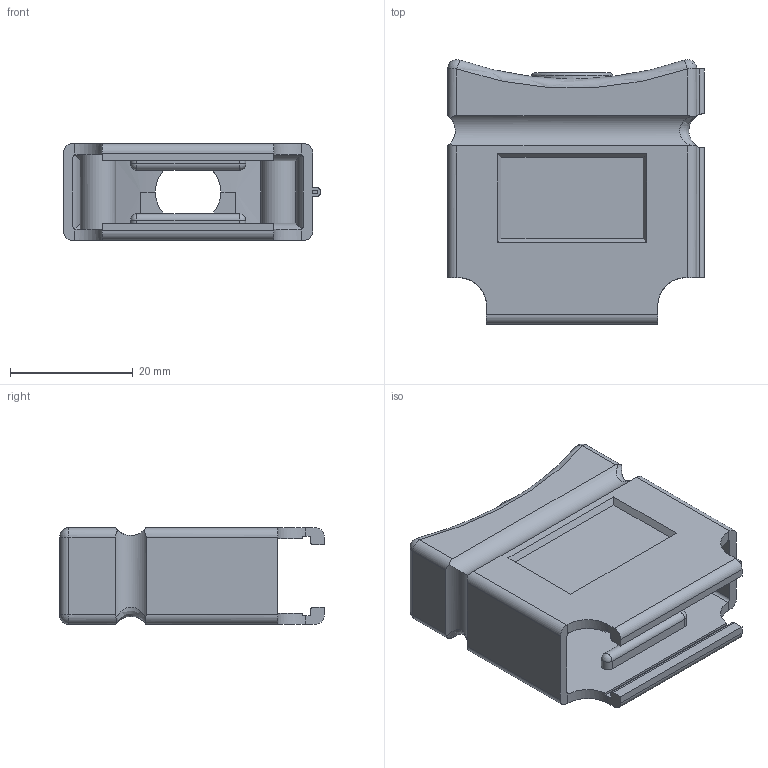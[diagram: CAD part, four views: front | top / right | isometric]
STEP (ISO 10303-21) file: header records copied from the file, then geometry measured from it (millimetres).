
FILE_DESCRIPTION((''),'2;1');
FILE_NAME('D:\_NTC CAD MODELS & ASSEMBLIES - STEP\STEP FILES\covers - ntc\cp series -\cp_25str\cp_25str_assy.stp','2016-04-27T16:36:57',('j_dipietro'),(''),'Autodesk Inventor 2012','Autodesk Inventor 2012','');
FILE_SCHEMA(('CONFIG_CONTROL_DESIGN'));
Length unit declared in the file: inch
Products named in the file (3): cp_25str_assy; cp_25str; B71219164
Assembly tree (4 placements, depth 2):
  cp_25str_assy
    cp_25str
    B71219164  x3
Bounding box: 41.91 x 43.18 x 15.75 mm (x, y, z)
Volume: 8849.1 mm3; surface area: 11019 mm2
Topology: 4 solids, 4 shells, 277 faces, 910 edges, 645 vertices
Faces by surface type: plane 155, cylinder 72, bspline 27, cone 9, sphere 8, torus 6
Full cylindrical faces by diameter (mm): 2.159 x3, 3.048 x3, 5.842 x1, 10.668 x1, 13.208 x1
Entity records: 12446 total; most frequent: CARTESIAN_POINT 6882, ORIENTED_EDGE 1214, DIRECTION 1042, EDGE_CURVE 607, VERTEX_POINT 425, AXIS2_PLACEMENT_3D 363, VECTOR 316, LINE 316
